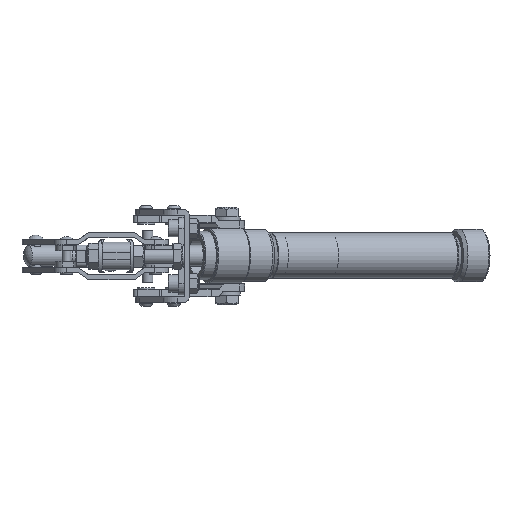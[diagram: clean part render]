
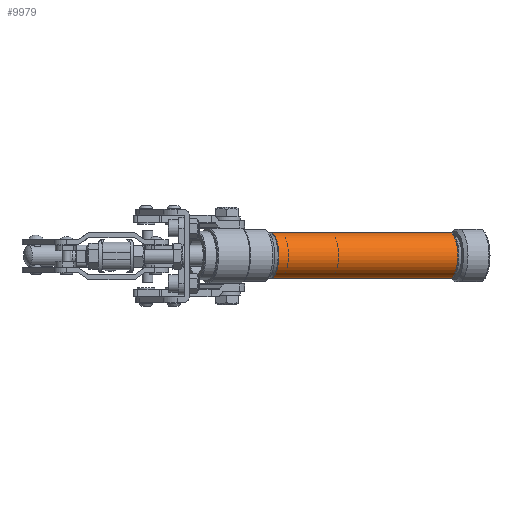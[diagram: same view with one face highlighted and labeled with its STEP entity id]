
A CAD part, left-side view. The second image highlights one B-rep face of the part: STEP entity #9979.
In plain terms, the highlighted cylindrical face has radius 13.2 mm (diameter 26.4 mm), a partial arc.
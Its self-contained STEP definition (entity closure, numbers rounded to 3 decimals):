
#1075=CIRCLE('',#11508,13.2);
#1076=CIRCLE('',#11509,13.2);
#1883=FACE_OUTER_BOUND('',#2534,.T.);
#2534=EDGE_LOOP('',(#8597,#8598,#8599,#8600));
#3317=LINE('',#17318,#4051);
#3318=LINE('',#17321,#4052);
#4051=VECTOR('',#13998,1000.);
#4052=VECTOR('',#14001,1000.);
#4940=VERTEX_POINT('',#17314);
#4941=VERTEX_POINT('',#17315);
#4942=VERTEX_POINT('',#17317);
#4943=VERTEX_POINT('',#17319);
#6174=EDGE_CURVE('',#4941,#4942,#3317,.T.);
#6176=EDGE_CURVE('',#4940,#4943,#3318,.T.);
#6214=EDGE_CURVE('',#4941,#4940,#1075,.T.);
#6215=EDGE_CURVE('',#4942,#4943,#1076,.T.);
#8597=ORIENTED_EDGE('',*,*,#6174,.F.);
#8598=ORIENTED_EDGE('',*,*,#6214,.T.);
#8599=ORIENTED_EDGE('',*,*,#6176,.T.);
#8600=ORIENTED_EDGE('',*,*,#6215,.F.);
#9538=CYLINDRICAL_SURFACE('',#11507,13.2);
#9979=ADVANCED_FACE('',(#1883),#9538,.T.);
#11507=AXIS2_PLACEMENT_3D('',#17479,#14098,#14099);
#11508=AXIS2_PLACEMENT_3D('',#17480,#14100,#14101);
#11509=AXIS2_PLACEMENT_3D('',#17481,#14102,#14103);
#13998=DIRECTION('',(0.,0.,1.));
#14001=DIRECTION('',(0.,0.,1.));
#14098=DIRECTION('center_axis',(0.,0.,1.));
#14099=DIRECTION('ref_axis',(1.,0.,0.));
#14100=DIRECTION('center_axis',(0.,0.,1.));
#14101=DIRECTION('ref_axis',(1.,0.,0.));
#14102=DIRECTION('center_axis',(0.,0.,1.));
#14103=DIRECTION('ref_axis',(1.,0.,0.));
#17314=CARTESIAN_POINT('',(13.2,0.,-130.));
#17315=CARTESIAN_POINT('',(-13.2,0.,-130.));
#17317=CARTESIAN_POINT('',(-13.2,0.,-19.));
#17318=CARTESIAN_POINT('',(-13.2,0.,-50.));
#17319=CARTESIAN_POINT('',(13.2,0.,-19.));
#17321=CARTESIAN_POINT('',(13.2,0.,-50.));
#17479=CARTESIAN_POINT('Origin',(0.,0.,-50.));
#17480=CARTESIAN_POINT('Origin',(0.,0.,-130.));
#17481=CARTESIAN_POINT('Origin',(0.,0.,-19.));
